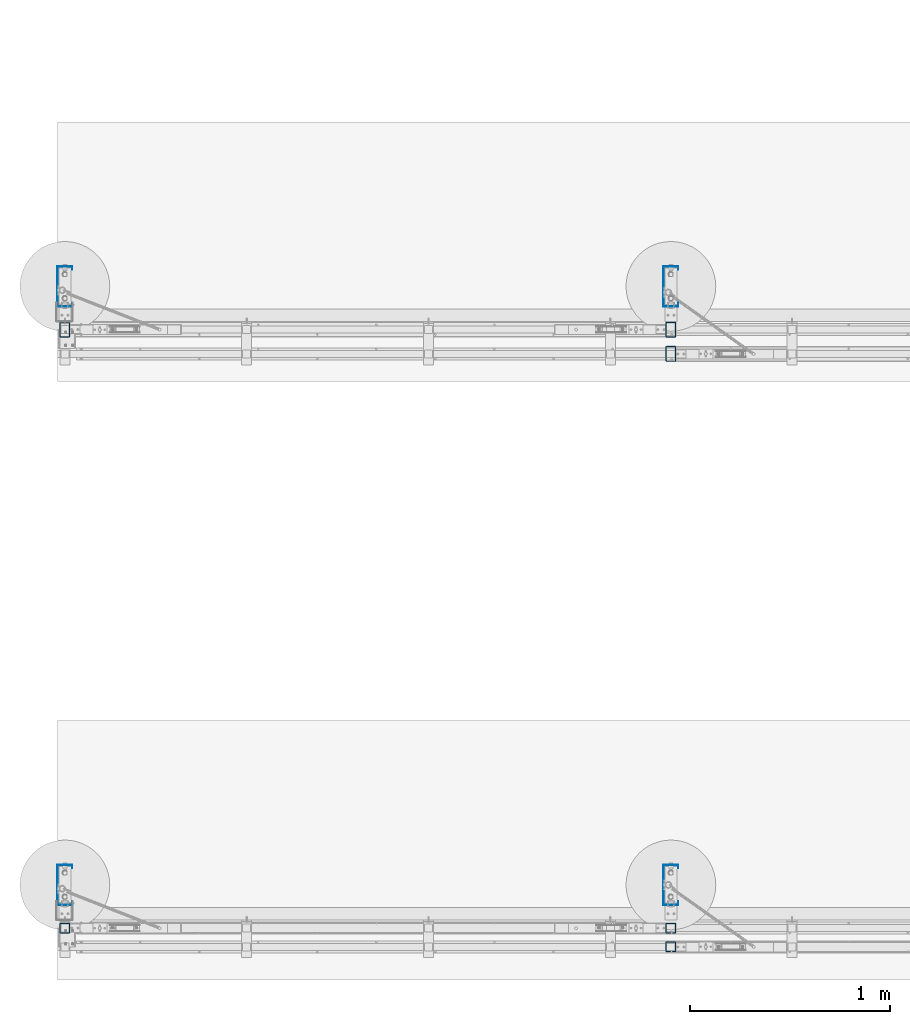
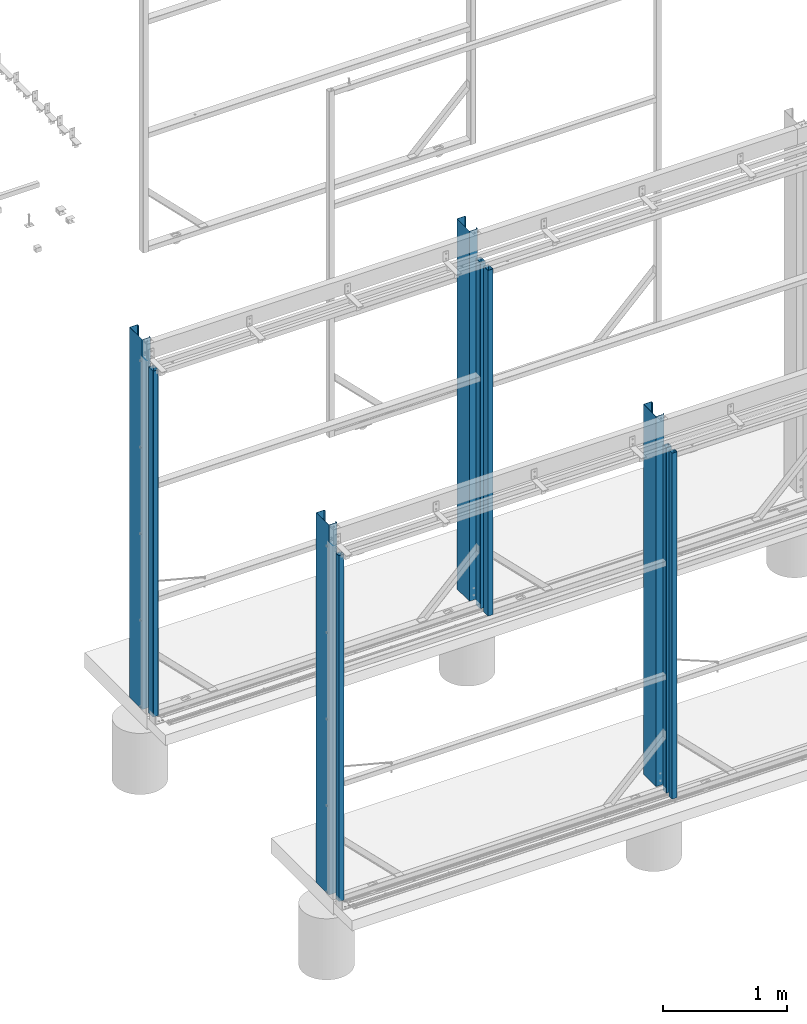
# One storey, part 1 of 91: 10 columns, 10 elements without a shape of their own.
"""IFC2X3 building model written with IfcOpenShell, lengths in millimetres."""

from ifc_helpers import new_model, si_unit, frame, origin_with_axes, origin_2d_with_axis, place, context, subcontext, project, spatial, hollow_rectangle, c_section, extrude, material, type_object, element, aggregate, save


model = new_model("IFC2X3")

# Units and contexts
model_context = context("Model", 3, precision=1e-05, world=origin_with_axes())
body_context = subcontext(model_context, "Body", "Model", "MODEL_VIEW")
ifc_project = project(units=[si_unit("LENGTHUNIT", "METRE", prefix="MILLI"), si_unit("AREAUNIT", "SQUARE_METRE"), si_unit("VOLUMEUNIT", "CUBIC_METRE"), si_unit("MASSUNIT", "GRAM", prefix="KILO"), si_unit("TIMEUNIT", "SECOND"), si_unit("PLANEANGLEUNIT", "RADIAN"), si_unit("SOLIDANGLEUNIT", "STERADIAN"), si_unit("THERMODYNAMICTEMPERATUREUNIT", "DEGREE_CELSIUS"), si_unit("LUMINOUSINTENSITYUNIT", "LUMEN")], contexts=[model_context])

# Site, building, storey
site_placement = place(None, origin_with_axes())
site = spatial("IfcSite", under=ifc_project, at=site_placement, Name="Undefined", CompositionType="ELEMENT")
building_placement = place(site_placement, origin_with_axes())
building = spatial("IfcBuilding", under=site, at=building_placement, Name="Undefined", CompositionType="ELEMENT")
storey_placement = place(building_placement, origin_with_axes())
storey = spatial("IfcBuildingStorey", under=building, at=storey_placement, Name="Undefined", CompositionType="ELEMENT", Elevation=0.0)

# Assembly, column
assembly_1_placement = place(storey_placement, origin_with_axes())
assembly_1 = element("IfcElementAssembly", 1, at=assembly_1_placement, inside=storey, Name="SLIDING DOOR", AssemblyPlace="NOTDEFINED", PredefinedType="RIGID_FRAME")
ifc_material_1 = material(Name="STEEL/300")
column_type_1 = type_object("IfcColumnType", Name="RHS:75x50x2.0", PredefinedType="NOTDEFINED")
column_1_placement = place(assembly_1_placement, frame((-113758.34, 87712.15, -17.0), z_axis=(0.0, 0.0, 1.0), x_axis=(0.0, 1.0, 0.0)))
column_1 = element("IfcColumn", 2, at=column_1_placement, type_object=column_type_1, material=ifc_material_1, Name="SLIDING DOOR", ObjectType="RHS:75x50x2.0", context=body_context, shape_type="SweptSolid", body=[
    extrude(hollow_rectangle(XDim=50.0, YDim=75.0, WallThickness=2.0, InnerFilletRadius=2.0, OuterFilletRadius=4.0, at=origin_2d_with_axis()), frame((0.0, 0.0, 3393.0), z_axis=(0.0, 0.0, -1.0), x_axis=(0.0, 1.0, 0.0)), (0.0, 0.0, 1.0), 3393.0),
])
aggregate(assembly_1, [column_1])

assembly_2_placement = place(storey_placement, origin_with_axes())
assembly_2 = element("IfcElementAssembly", 3, at=assembly_2_placement, inside=storey, Name="SLIDING DOOR", AssemblyPlace="NOTDEFINED", PredefinedType="RIGID_FRAME")
column_2_placement = place(assembly_2_placement, frame((-113758.34, 87590.15, -17.0), z_axis=(0.0, 0.0, 1.0), x_axis=(0.0, 1.0, 0.0)))
column_2 = element("IfcColumn", 4, at=column_2_placement, type_object=column_type_1, material=ifc_material_1, Name="SLIDING DOOR", ObjectType="RHS:75x50x2.0", context=body_context, shape_type="SweptSolid", body=[
    extrude(hollow_rectangle(XDim=50.0, YDim=75.0, WallThickness=2.0, InnerFilletRadius=2.0, OuterFilletRadius=4.0, at=origin_2d_with_axis()), frame((0.0, 0.0, 3393.0), z_axis=(0.0, 0.0, -1.0), x_axis=(0.0, 1.0, 0.0)), (0.0, 0.0, 1.0), 3393.0),
])
aggregate(assembly_2, [column_2])

assembly_3_placement = place(storey_placement, origin_with_axes())
assembly_3 = element("IfcElementAssembly", 5, at=assembly_3_placement, inside=storey, Name="SLIDING DOOR", AssemblyPlace="NOTDEFINED", PredefinedType="RIGID_FRAME")
column_3_placement = place(assembly_3_placement, frame((-116795.84, 87712.15, -17.0), z_axis=(0.0, 0.0, 1.0), x_axis=(0.0, 1.0, 0.0)))
column_3 = element("IfcColumn", 6, at=column_3_placement, type_object=column_type_1, material=ifc_material_1, Name="SLIDING DOOR", ObjectType="RHS:75x50x2.0", context=body_context, shape_type="SweptSolid", body=[
    extrude(hollow_rectangle(XDim=50.0, YDim=75.0, WallThickness=2.0, InnerFilletRadius=2.0, OuterFilletRadius=4.0, at=origin_2d_with_axis()), frame((0.0, 0.0, 3393.0), z_axis=(0.0, 0.0, -1.0), x_axis=(0.0, 1.0, 0.0)), (0.0, 0.0, 1.0), 3393.0),
])
aggregate(assembly_3, [column_3])

assembly_4_placement = place(storey_placement, origin_with_axes())
assembly_4 = element("IfcElementAssembly", 7, at=assembly_4_placement, inside=storey, Name="COLUMN", AssemblyPlace="NOTDEFINED", PredefinedType="RIGID_FRAME")
ifc_material_2 = material(Name="STEEL/G450")
column_type_2 = type_object("IfcColumnType", Name="C:200-19", PredefinedType="NOTDEFINED")
column_4_placement = place(assembly_4_placement, frame((-113758.34, 87928.65, -32.0), z_axis=(0.0, 0.0, 1.0), x_axis=(0.0, -1.0, 0.0)))
column_4 = element("IfcColumn", 8, at=column_4_placement, type_object=column_type_2, material=ifc_material_2, Name="COLUMN", ObjectType="C:200-19", context=body_context, shape_type="SweptSolid", body=[
    extrude(c_section(Depth=203.0, Width=76.0, WallThickness=1.899999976, Girth=19.0, at=origin_2d_with_axis()), frame((0.0, 0.0, 3632.0), z_axis=(0.0, 0.0, -1.0), x_axis=(0.0, 1.0, 0.0)), (0.0, 0.0, 1.0), 3632.0),
])
aggregate(assembly_4, [column_4])

assembly_5_placement = place(storey_placement, origin_with_axes())
assembly_5 = element("IfcElementAssembly", 9, at=assembly_5_placement, inside=storey, Name="COLUMN", AssemblyPlace="NOTDEFINED", PredefinedType="RIGID_FRAME")
column_5_placement = place(assembly_5_placement, frame((-116795.84, 87928.65, -32.0), z_axis=(0.0, 0.0, 1.0), x_axis=(0.0, -1.0, 0.0)))
column_5 = element("IfcColumn", 10, at=column_5_placement, type_object=column_type_2, material=ifc_material_2, Name="COLUMN", ObjectType="C:200-19", context=body_context, shape_type="SweptSolid", body=[
    extrude(c_section(Depth=203.0, Width=76.0, WallThickness=1.899999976, Girth=19.0, at=origin_2d_with_axis()), frame((0.0, 0.0, 3632.0), z_axis=(0.0, 0.0, -1.0), x_axis=(0.0, 1.0, 0.0)), (0.0, 0.0, 1.0), 3632.0),
])
aggregate(assembly_5, [column_5])

assembly_6_placement = place(storey_placement, origin_with_axes())
assembly_6 = element("IfcElementAssembly", 11, at=assembly_6_placement, inside=storey, Name="COLUMN", AssemblyPlace="NOTDEFINED", PredefinedType="RIGID_FRAME")
column_6_placement = place(assembly_6_placement, frame((-113758.34, 84928.65, -32.0), z_axis=(0.0, 0.0, 1.0), x_axis=(0.0, -1.0, 0.0)))
column_6 = element("IfcColumn", 12, at=column_6_placement, type_object=column_type_2, material=ifc_material_2, Name="COLUMN", ObjectType="C:200-19", context=body_context, shape_type="SweptSolid", body=[
    extrude(c_section(Depth=203.0, Width=76.0, WallThickness=1.899999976, Girth=19.0, at=origin_2d_with_axis()), frame((0.0, 0.0, 3632.0), z_axis=(0.0, 0.0, -1.0), x_axis=(0.0, 1.0, 0.0)), (0.0, 0.0, 1.0), 3632.0),
])
aggregate(assembly_6, [column_6])

assembly_7_placement = place(storey_placement, origin_with_axes())
assembly_7 = element("IfcElementAssembly", 13, at=assembly_7_placement, inside=storey, Name="COLUMN", AssemblyPlace="NOTDEFINED", PredefinedType="RIGID_FRAME")
column_7_placement = place(assembly_7_placement, frame((-116795.84, 84928.65, -32.0), z_axis=(0.0, 0.0, 1.0), x_axis=(0.0, -1.0, 0.0)))
column_7 = element("IfcColumn", 14, at=column_7_placement, type_object=column_type_2, material=ifc_material_2, Name="COLUMN", ObjectType="C:200-19", context=body_context, shape_type="SweptSolid", body=[
    extrude(c_section(Depth=203.0, Width=76.0, WallThickness=1.899999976, Girth=19.0, at=origin_2d_with_axis()), frame((0.0, 0.0, 3632.0), z_axis=(0.0, 0.0, -1.0), x_axis=(0.0, 1.0, 0.0)), (0.0, 0.0, 1.0), 3632.0),
])
aggregate(assembly_7, [column_7])

assembly_8_placement = place(storey_placement, origin_with_axes())
assembly_8 = element("IfcElementAssembly", 15, at=assembly_8_placement, inside=storey, Name="SLIDING DOOR", AssemblyPlace="NOTDEFINED", PredefinedType="RIGID_FRAME")
column_type_3 = type_object("IfcColumnType", Name="SHS:50x50x2.0", PredefinedType="NOTDEFINED")
column_8_placement = place(assembly_8_placement, frame((-113758.34, 84618.15, -17.0), z_axis=(0.0, 0.0, 1.0), x_axis=(0.0, 1.0, 0.0)))
column_8 = element("IfcColumn", 16, at=column_8_placement, type_object=column_type_3, material=ifc_material_1, Name="SLIDING DOOR", ObjectType="SHS:50x50x2.0", context=body_context, shape_type="SweptSolid", body=[
    extrude(hollow_rectangle(XDim=50.0, YDim=50.0, WallThickness=2.0, InnerFilletRadius=2.0, OuterFilletRadius=4.0, at=origin_2d_with_axis()), frame((0.0, 0.0, 3393.0), z_axis=(0.0, 0.0, -1.0), x_axis=(0.0, 1.0, 0.0)), (0.0, 0.0, 1.0), 3393.0),
])
aggregate(assembly_8, [column_8])

assembly_9_placement = place(storey_placement, origin_with_axes())
assembly_9 = element("IfcElementAssembly", 17, at=assembly_9_placement, inside=storey, Name="SLIDING DOOR", AssemblyPlace="NOTDEFINED", PredefinedType="RIGID_FRAME")
column_9_placement = place(assembly_9_placement, frame((-113758.34, 84712.15, -17.0), z_axis=(0.0, 0.0, 1.0), x_axis=(0.0, 1.0, 0.0)))
column_9 = element("IfcColumn", 18, at=column_9_placement, type_object=column_type_3, material=ifc_material_1, Name="SLIDING DOOR", ObjectType="SHS:50x50x2.0", context=body_context, shape_type="SweptSolid", body=[
    extrude(hollow_rectangle(XDim=50.0, YDim=50.0, WallThickness=2.0, InnerFilletRadius=2.0, OuterFilletRadius=4.0, at=origin_2d_with_axis()), frame((0.0, 0.0, 3393.0), z_axis=(0.0, 0.0, -1.0), x_axis=(0.0, 1.0, 0.0)), (0.0, 0.0, 1.0), 3393.0),
])
aggregate(assembly_9, [column_9])

assembly_10_placement = place(storey_placement, origin_with_axes())
assembly_10 = element("IfcElementAssembly", 19, at=assembly_10_placement, inside=storey, Name="SLIDING DOOR", AssemblyPlace="NOTDEFINED", PredefinedType="RIGID_FRAME")
column_10_placement = place(assembly_10_placement, frame((-116795.84, 84712.15, -17.0), z_axis=(0.0, 0.0, 1.0), x_axis=(0.0, 1.0, 0.0)))
column_10 = element("IfcColumn", 20, at=column_10_placement, type_object=column_type_3, material=ifc_material_1, Name="SLIDING DOOR", ObjectType="SHS:50x50x2.0", context=body_context, shape_type="SweptSolid", body=[
    extrude(hollow_rectangle(XDim=50.0, YDim=50.0, WallThickness=2.0, InnerFilletRadius=2.0, OuterFilletRadius=4.0, at=origin_2d_with_axis()), frame((0.0, 0.0, 3393.0), z_axis=(0.0, 0.0, -1.0), x_axis=(0.0, 1.0, 0.0)), (0.0, 0.0, 1.0), 3393.0),
])
aggregate(assembly_10, [column_10])

save(model, "model.ifc")
